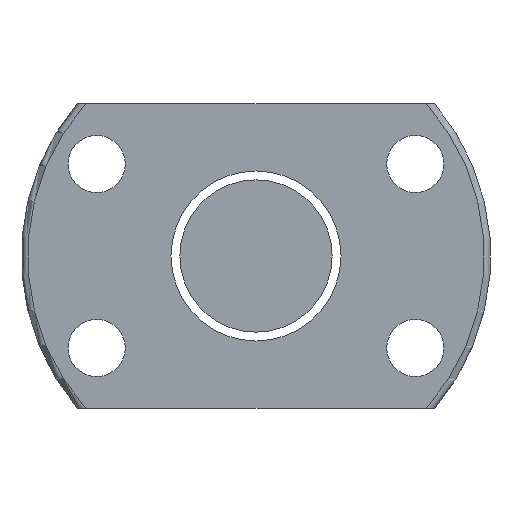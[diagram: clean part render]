
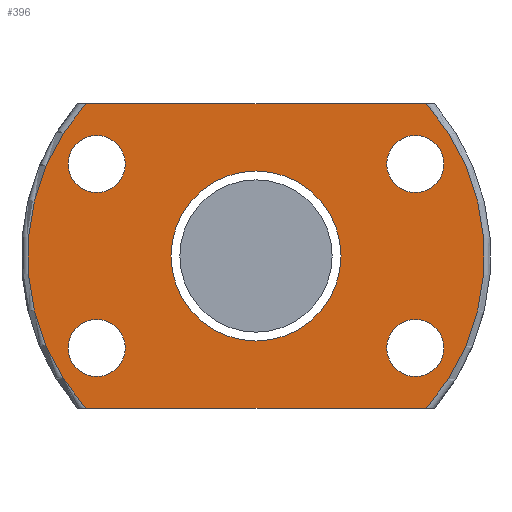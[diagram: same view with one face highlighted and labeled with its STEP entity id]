
A CAD part, left-side view. The second image highlights one B-rep face of the part: STEP entity #396.
In plain terms, the highlighted planar face has unit normal (-1, 0, 0).
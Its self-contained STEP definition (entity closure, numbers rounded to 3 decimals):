
#5 = DIRECTION ( 'NONE',  ( -1., 0., 0. ) ) ;
#8 = DIRECTION ( 'NONE',  ( -1., 0., 0. ) ) ;
#9 = VERTEX_POINT ( 'NONE', #261 ) ;
#14 = EDGE_CURVE ( 'NONE', #246, #465, #551, .T. ) ;
#15 = CIRCLE ( 'NONE', #605, 18. ) ;
#62 = AXIS2_PLACEMENT_3D ( 'NONE', #137, #8, #526 ) ;
#72 = EDGE_LOOP ( 'NONE', ( #841 ) ) ;
#81 = EDGE_CURVE ( 'NONE', #465, #543, #278, .T. ) ;
#86 = DIRECTION ( 'NONE',  ( -1., 0., 0. ) ) ;
#91 = EDGE_CURVE ( 'NONE', #804, #804, #112, .T. ) ;
#108 = DIRECTION ( 'NONE',  ( 0., 0., 1. ) ) ;
#109 = VECTOR ( 'NONE', #838, 1000. ) ;
#112 = CIRCLE ( 'NONE', #151, 6.7 ) ;
#113 = EDGE_LOOP ( 'NONE', ( #210 ) ) ;
#116 = CARTESIAN_POINT ( 'NONE',  ( 197.483, 138.327, 7.25 ) ) ;
#126 = ORIENTED_EDGE ( 'NONE', *, *, #578, .T. ) ;
#133 = VECTOR ( 'NONE', #369, 1000. ) ;
#134 = CIRCLE ( 'NONE', #178, 2.25 ) ;
#137 = CARTESIAN_POINT ( 'NONE',  ( 197.483, 132.47, 0. ) ) ;
#151 = AXIS2_PLACEMENT_3D ( 'NONE', #164, #86, #108 ) ;
#160 = CARTESIAN_POINT ( 'NONE',  ( 197.483, 132.47, 12. ) ) ;
#162 = CARTESIAN_POINT ( 'NONE',  ( 197.483, 139.186, 12. ) ) ;
#164 = CARTESIAN_POINT ( 'NONE',  ( 197.483, 125.77, 0. ) ) ;
#167 = VERTEX_POINT ( 'NONE', #335 ) ;
#173 = ORIENTED_EDGE ( 'NONE', *, *, #81, .T. ) ;
#178 = AXIS2_PLACEMENT_3D ( 'NONE', #208, #202, #260 ) ;
#202 = DIRECTION ( 'NONE',  ( 1., 0., 0. ) ) ;
#208 = CARTESIAN_POINT ( 'NONE',  ( 197.483, 113.212, -7.25 ) ) ;
#210 = ORIENTED_EDGE ( 'NONE', *, *, #378, .T. ) ;
#211 = FACE_BOUND ( 'NONE', #701, .T. ) ;
#218 = FACE_BOUND ( 'NONE', #450, .T. ) ;
#236 = DIRECTION ( 'NONE',  ( 0., 0., 1. ) ) ;
#246 = VERTEX_POINT ( 'NONE', #803 ) ;
#255 = FACE_BOUND ( 'NONE', #521, .T. ) ;
#260 = DIRECTION ( 'NONE',  ( 0., 0., 1. ) ) ;
#261 = CARTESIAN_POINT ( 'NONE',  ( 197.483, 113.212, 9.5 ) ) ;
#266 = CARTESIAN_POINT ( 'NONE',  ( 197.483, 113.212, -5. ) ) ;
#278 = CIRCLE ( 'NONE', #468, 18. ) ;
#280 = DIRECTION ( 'NONE',  ( 1., 0., 0. ) ) ;
#293 = EDGE_CURVE ( 'NONE', #543, #390, #554, .T. ) ;
#316 = ORIENTED_EDGE ( 'NONE', *, *, #293, .T. ) ;
#335 = CARTESIAN_POINT ( 'NONE',  ( 197.483, 138.327, -5. ) ) ;
#344 = CARTESIAN_POINT ( 'NONE',  ( 197.483, 138.327, -7.25 ) ) ;
#346 = CARTESIAN_POINT ( 'NONE',  ( 197.483, 125.77, 0. ) ) ;
#369 = DIRECTION ( 'NONE',  ( 0., 1., 0. ) ) ;
#378 = EDGE_CURVE ( 'NONE', #744, #744, #134, .T. ) ;
#386 = CIRCLE ( 'NONE', #756, 2.25 ) ;
#390 = VERTEX_POINT ( 'NONE', #780 ) ;
#393 = EDGE_CURVE ( 'NONE', #167, #167, #386, .T. ) ;
#396 = ADVANCED_FACE ( 'NONE', ( #404, #603, #255, #452, #218, #211 ), #715, .T. ) ;
#404 = FACE_OUTER_BOUND ( 'NONE', #779, .T. ) ;
#408 = ORIENTED_EDGE ( 'NONE', *, *, #393, .F. ) ;
#417 = DIRECTION ( 'NONE',  ( 0., 0., 1. ) ) ;
#422 = CARTESIAN_POINT ( 'NONE',  ( 197.483, 125.77, 0. ) ) ;
#423 = EDGE_CURVE ( 'NONE', #390, #246, #15, .T. ) ;
#437 = CARTESIAN_POINT ( 'NONE',  ( 197.483, 113.212, 7.25 ) ) ;
#450 = EDGE_LOOP ( 'NONE', ( #408 ) ) ;
#452 = FACE_BOUND ( 'NONE', #72, .T. ) ;
#465 = VERTEX_POINT ( 'NONE', #162 ) ;
#468 = AXIS2_PLACEMENT_3D ( 'NONE', #346, #611, #689 ) ;
#499 = DIRECTION ( 'NONE',  ( 0., 0., 1. ) ) ;
#504 = ORIENTED_EDGE ( 'NONE', *, *, #423, .T. ) ;
#507 = AXIS2_PLACEMENT_3D ( 'NONE', #116, #280, #499 ) ;
#521 = EDGE_LOOP ( 'NONE', ( #126 ) ) ;
#526 = DIRECTION ( 'NONE',  ( 0., 0., 1. ) ) ;
#533 = DIRECTION ( 'NONE',  ( 0., 0., 1. ) ) ;
#543 = VERTEX_POINT ( 'NONE', #683 ) ;
#551 = LINE ( 'NONE', #160, #133 ) ;
#554 = LINE ( 'NONE', #750, #109 ) ;
#570 = DIRECTION ( 'NONE',  ( 1., 0., 0. ) ) ;
#578 = EDGE_CURVE ( 'NONE', #9, #9, #579, .T. ) ;
#579 = CIRCLE ( 'NONE', #829, 2.25 ) ;
#596 = CARTESIAN_POINT ( 'NONE',  ( 197.483, 125.77, 6.7 ) ) ;
#603 = FACE_BOUND ( 'NONE', #113, .T. ) ;
#605 = AXIS2_PLACEMENT_3D ( 'NONE', #422, #608, #417 ) ;
#607 = VERTEX_POINT ( 'NONE', #808 ) ;
#608 = DIRECTION ( 'NONE',  ( -1., 0., 0. ) ) ;
#611 = DIRECTION ( 'NONE',  ( -1., 0., 0. ) ) ;
#673 = ORIENTED_EDGE ( 'NONE', *, *, #14, .T. ) ;
#677 = EDGE_CURVE ( 'NONE', #607, #607, #684, .T. ) ;
#683 = CARTESIAN_POINT ( 'NONE',  ( 197.483, 139.186, -12. ) ) ;
#684 = CIRCLE ( 'NONE', #507, 2.25 ) ;
#689 = DIRECTION ( 'NONE',  ( 0., 0., 1. ) ) ;
#701 = EDGE_LOOP ( 'NONE', ( #827 ) ) ;
#715 = PLANE ( 'NONE',  #62 ) ;
#744 = VERTEX_POINT ( 'NONE', #266 ) ;
#750 = CARTESIAN_POINT ( 'NONE',  ( 197.483, 132.47, -12. ) ) ;
#756 = AXIS2_PLACEMENT_3D ( 'NONE', #344, #5, #533 ) ;
#779 = EDGE_LOOP ( 'NONE', ( #504, #673, #173, #316 ) ) ;
#780 = CARTESIAN_POINT ( 'NONE',  ( 197.483, 112.353, -12. ) ) ;
#803 = CARTESIAN_POINT ( 'NONE',  ( 197.483, 112.353, 12. ) ) ;
#804 = VERTEX_POINT ( 'NONE', #596 ) ;
#808 = CARTESIAN_POINT ( 'NONE',  ( 197.483, 138.327, 9.5 ) ) ;
#827 = ORIENTED_EDGE ( 'NONE', *, *, #677, .T. ) ;
#829 = AXIS2_PLACEMENT_3D ( 'NONE', #437, #570, #236 ) ;
#838 = DIRECTION ( 'NONE',  ( 0., -1., 0. ) ) ;
#841 = ORIENTED_EDGE ( 'NONE', *, *, #91, .F. ) ;
